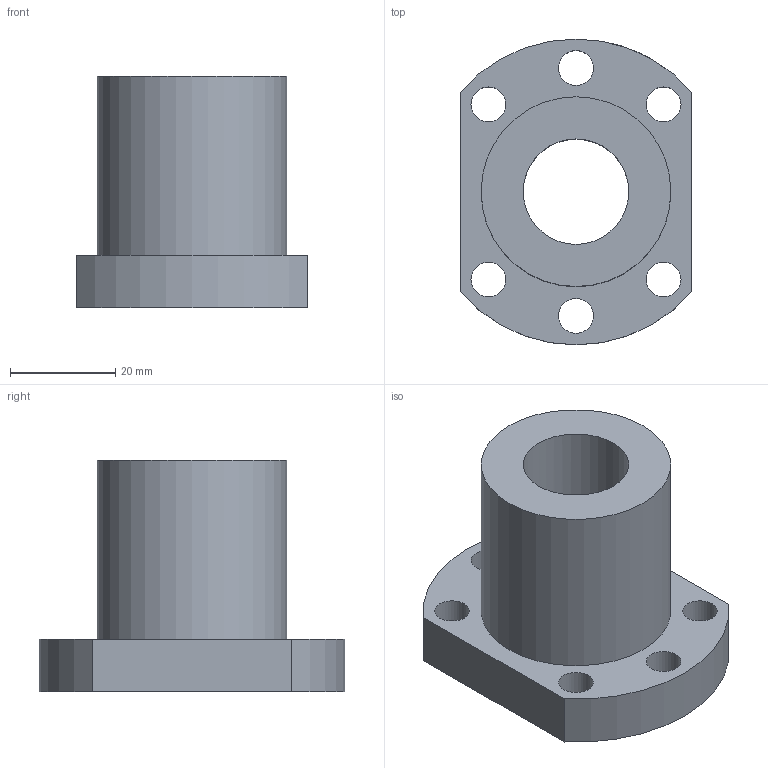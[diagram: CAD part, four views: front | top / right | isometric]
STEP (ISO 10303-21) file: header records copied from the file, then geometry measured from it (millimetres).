
FILE_DESCRIPTION(/* description */ (''),/* implementation_level */ '2;1');
FILE_NAME(/* name */ '20-5T3',/* time_stamp */ '2007-05-17T17:55:35+08:00',/* author */ (''),/* organization */ (''),/* preprocessor_version */ 'ST-DEVELOPER v9',/* originating_system */ 'UGS - NX 4.0',/* authorisation */ '');
FILE_SCHEMA (('CONFIG_CONTROL_DESIGN'));
Length unit declared in the file: millimetre
Products named in the file (1): 20-5T3
Bounding box: 44 x 58 x 44 mm (x, y, z)
Volume: 41198.3 mm3; surface area: 13380.7 mm2
Topology: 1 solids, 1 shells, 18 faces, 42 edges, 28 vertices
Faces by surface type: cylinder 12, plane 6
Full cylindrical faces by diameter (mm): 4 x1, 6 x1, 6.6 x6, 20 x1, 36 x1
Entity records: 706 total; most frequent: CARTESIAN_POINT 193, DIRECTION 90, ORIENTED_EDGE 64, EDGE_LOOP 46, AXIS2_PLACEMENT_3D 41, FACE_BOUND 38, EDGE_CURVE 32, VERTEX_POINT 28
